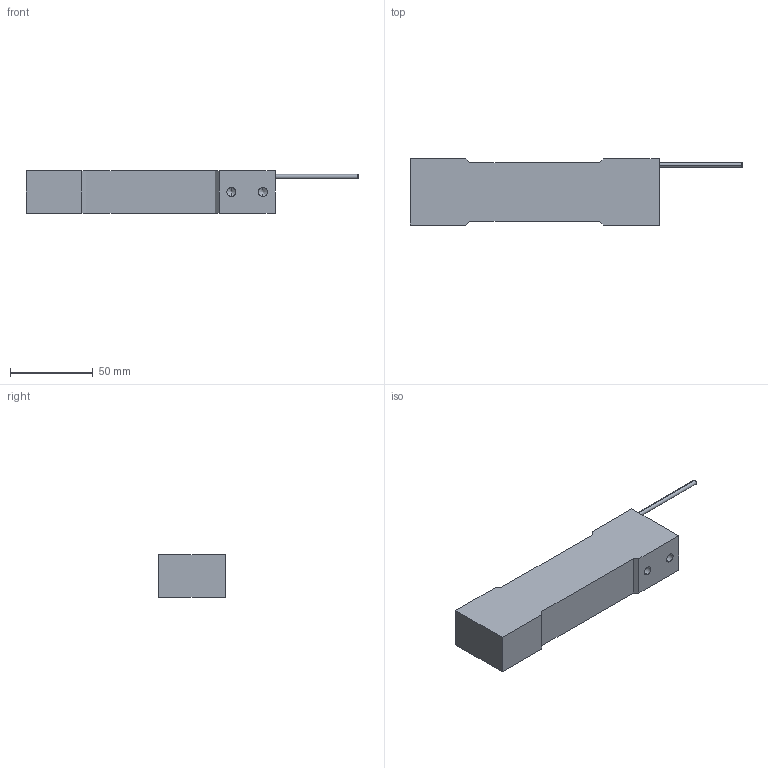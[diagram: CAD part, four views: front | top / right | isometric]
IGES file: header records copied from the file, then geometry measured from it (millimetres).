
Start section: SolidWorks IGES file using analytic representation for surfaces
Global section: file name: C:\Documents and Settings\Soundar\My Documents\Specsheets\Resistive\RRP1\rrp1.IGS; native system: SolidWorks 2009; preprocessor: SolidWorks 2009; author: Soundar; date: 120709.155128; units: inch
Bounding box: 200.37 x 39.88 x 25.4 mm (x, y, z)
Surface area: 22191.2 mm2 (no closed solid volume)
Topology: 0 solids, 0 shells, 33 faces, 336 edges, 328 vertices
Faces by surface type: revolution 18, bspline 15
